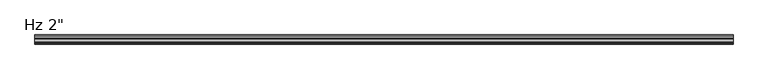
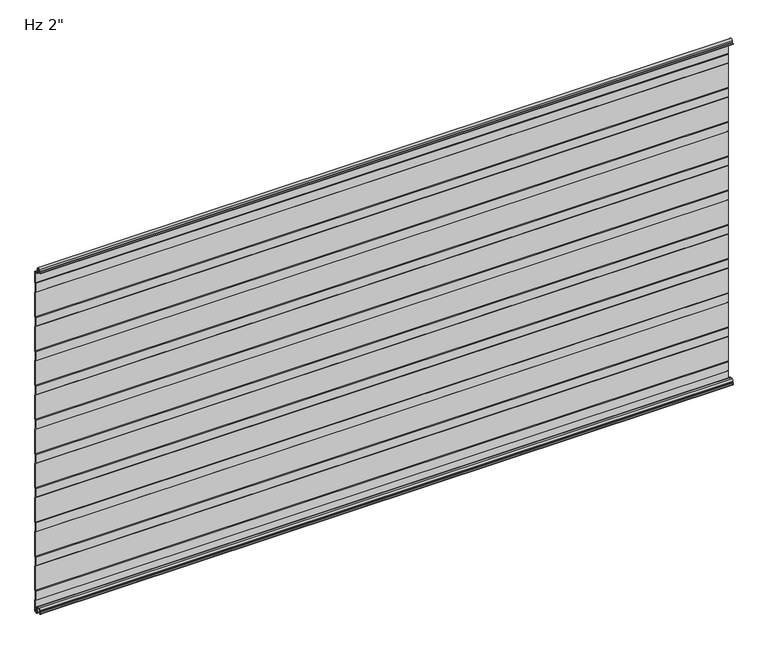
"""IFC4 building model written with IfcOpenShell, lengths in millimetres: plate geometry."""

from ifc_helpers import new_model, si_unit, frame, origin, place, context, project, spatial, polyline, circle_curve, source, transform, mapped, element, save
from ifc_brep_helpers import plane_surface, cylinder_surface, revolved_surface, advanced_brep


def plate_b0f2de99(model_context):
    return source(origin(), model_context, "Body", "AdvancedBrep", [
        advanced_brep(
        [(-730.0, -17.0015159, 2.0313088), (-730.0, -18.0015191, 1.0313116), (-730.0, -19.0015105, 2.0313088), (-730.0, -19.0015105, 6.0315125), (-730.0, -18.0015159, 6.0315125), (-730.0, -18.0015159, 8.7237223), (-730.0, -14.7015202, 12.023718), (-730.0, -10.301529, 12.023718), (-730.0, -7.0015335, 8.7237225), (-730.0, -7.0015335, -1.6962564), (-730.0, -5.2315393, -3.4662506), (-730.0, -0.9999916, -3.4662506), (-730.0, -0.9999916, 21.034026), (-730.0, -2.2002307, 22.4196686), (-730.0, -2.2002307, 41.7948349), (-730.0, -1.0, 43.1804679), (-730.0, -1.0, 97.2338833), (-730.0, -2.2002307, 98.6195162), (-730.0, -2.2002307, 117.9946825), (-730.0, -1.0, 119.3803155), (-730.0, -1.0, 173.4337309), (-730.0, -2.2002307, 174.8193638), (-730.0, -2.2002307, 194.1945301), (-730.0, -1.0, 195.5801631), (-730.0, -1.0, 249.6335785), (-730.0, -2.2002307, 251.0192114), (-730.0, -2.2002307, 270.3943777), (-730.0, -1.0, 271.7800107), (-730.0, -1.0, 325.8334261), (-730.0, -2.2002307, 327.219059), (-730.0, -2.2002307, 346.5942253), (-730.0, -1.0, 347.9798583), (-730.0, -1.0, 402.0332737), (-730.0, -2.2002307, 403.4189066), (-730.0, -2.2002307, 422.7940729), (-730.0, -1.0, 424.1797059), (-730.0, -1.0, 478.2331213), (-730.0, -2.2002307, 479.6187542), (-730.0, -2.2002307, 498.9939205), (-730.0, -1.0, 500.3795535), (-730.0, -1.0, 554.4329689), (-730.0, -2.2002307, 555.8186018), (-730.0, -2.2002307, 575.1937681), (-730.0, -1.0, 576.5794011), (-730.0, -1.0, 630.6328165), (-730.0, -2.2002307, 632.0184494), (-730.0, -2.2002307, 651.3936157), (-730.0, -1.0, 652.7792487), (-730.0, -1.0, 706.8326641), (-730.0, -2.2002307, 708.218297), (-730.0, -2.2002307, 727.5934633), (-730.0, -1.0, 728.9790963), (-730.0, -1.0, 753.4787013), (-730.0, -6.0026007, 753.4787013), (-730.0, -9.9974365, 757.3016499), (-730.0, -10.4046442, 765.7931719), (-730.0, -14.7059822, 765.7921924), (-730.0, -14.9256429, 761.6513685), (-730.0, -16.6743462, 759.9686884), (-730.0, -19.0015288, 759.9686884), (-730.0, -19.0015288, 760.9686884), (-730.0, -16.6743462, 760.9686884), (-730.0, -15.9247038, 761.6955779), (-730.0, -15.7045782, 765.8451655), (-730.0, -9.405912, 765.8435732), (-730.0, -8.9985844, 757.3495495), (-730.0, -6.0004836, 754.4787013), (-730.0, -1.4015652, 754.4787013), (-730.0, -0.001568, 753.078797), (-730.0, 2.09e-05, 729.1275849), (-730.0, -0.3417885, 728.2116305), (-730.0, -1.2002307, 727.2205829), (-730.0, -1.2002307, 708.5911775), (-730.0, -0.3417885, 707.6001298), (-730.0, 0.0, 706.6835129), (-730.0, 0.0, 652.9283998), (-730.0, -0.3417885, 652.0117829), (-730.0, -1.2002307, 651.0207353), (-730.0, -1.2002307, 632.3913299), (-730.0, -0.3417885, 631.4002822), (-730.0, 0.0, 630.4836653), (-730.0, 0.0, 576.7285522), (-730.0, -0.3417885, 575.8119353), (-730.0, -1.2002307, 574.8208877), (-730.0, -1.2002307, 556.1914823), (-730.0, -0.3417885, 555.2004346), (-730.0, 0.0, 554.2838177), (-730.0, 0.0, 500.5287046), (-730.0, -0.3417885, 499.6120877), (-730.0, -1.2002307, 498.6210401), (-730.0, -1.2002307, 479.9916347), (-730.0, -0.3417885, 479.000587), (-730.0, 0.0, 478.0839701), (-730.0, 0.0, 424.328857), (-730.0, -0.3417885, 423.4122401), (-730.0, -1.2002307, 422.4211925), (-730.0, -1.2002307, 403.7917871), (-730.0, -0.3417885, 402.8007394), (-730.0, 0.0, 401.8841225), (-730.0, 0.0, 348.1290094), (-730.0, -0.3417885, 347.2123925), (-730.0, -1.2002307, 346.2213449), (-730.0, -1.2002307, 327.5919395), (-730.0, -0.3417885, 326.6008918), (-730.0, 0.0, 325.6842749), (-730.0, 0.0, 271.9291618), (-730.0, -0.3417885, 271.0125449), (-730.0, -1.2002307, 270.0214973), (-730.0, -1.2002307, 251.3920919), (-730.0, -0.3417885, 250.4010442), (-730.0, 0.0, 249.4844273), (-730.0, 0.0, 195.7293142), (-730.0, -0.3417885, 194.8126973), (-730.0, -1.2002307, 193.8216497), (-730.0, -1.2002307, 175.1922443), (-730.0, -0.3417885, 174.2011966), (-730.0, 0.0, 173.2845797), (-730.0, 0.0, 119.5294666), (-730.0, -0.3417885, 118.6128497), (-730.0, -1.2002307, 117.6218021), (-730.0, -1.2002307, 98.9923967), (-730.0, -0.3417885, 98.001349), (-730.0, 0.0, 97.0847321), (-730.0, 0.0, 43.329619), (-730.0, -0.3417885, 42.4130021), (-730.0, -1.2002307, 41.4219545), (-730.0, -1.2002307, 22.7925491), (-730.0, -0.3417885, 21.8015014), (-730.0, 0.0, 20.8847931), (-730.0, 8.4e-06, -3.0662545), (-730.0, -1.3999878, -4.4662506), (-730.0, -5.2315393, -4.4662506), (-730.0, -8.0015335, -1.6962564), (-730.0, -8.0015335, 8.7237225), (-730.0, -10.301529, 11.023718), (-730.0, -14.7015202, 11.023718), (-730.0, -17.0015159, 8.7237223), (730.0, -17.0015159, 2.0313088), (730.0, -17.0015159, 8.7237223), (730.0, -14.7015202, 11.023718), (730.0, -10.301529, 11.023718), (730.0, -8.0015335, 8.7237225), (730.0, -8.0015335, -1.6962564), (730.0, -5.2315393, -4.4662506), (730.0, -1.3999878, -4.4662506), (730.0, 8.4e-06, -3.0662545), (730.0, 8.4e-06, 20.8848845), (730.0, -0.3417885, 21.8015014), (730.0, -1.2002307, 22.7925491), (730.0, -1.2002307, 41.4219545), (730.0, -0.3417885, 42.4130021), (730.0, 0.0, 43.329619), (730.0, 0.0, 97.0847321), (730.0, -0.3417885, 98.001349), (730.0, -1.2002307, 98.9923967), (730.0, -1.2002307, 117.6218021), (730.0, -0.3417885, 118.6128497), (730.0, 0.0, 119.5294666), (730.0, 0.0, 173.2845797), (730.0, -0.3417885, 174.2011966), (730.0, -1.2002307, 175.1922443), (730.0, -1.2002307, 193.8216497), (730.0, -0.3417885, 194.8126973), (730.0, 0.0, 195.7293142), (730.0, 0.0, 249.4844273), (730.0, -0.3417885, 250.4010442), (730.0, -1.2002307, 251.3920919), (730.0, -1.2002307, 270.0214973), (730.0, -0.3417885, 271.0125449), (730.0, 0.0, 271.9291618), (730.0, 0.0, 325.6842749), (730.0, -0.3417885, 326.6008918), (730.0, -1.2002307, 327.5919395), (730.0, -1.2002307, 346.2213449), (730.0, -0.3417885, 347.2123925), (730.0, 0.0, 348.1290094), (730.0, 0.0, 401.8841225), (730.0, -0.3417885, 402.8007394), (730.0, -1.2002307, 403.7917871), (730.0, -1.2002307, 422.4211925), (730.0, -0.3417885, 423.4122401), (730.0, 0.0, 424.328857), (730.0, 0.0, 478.0839701), (730.0, -0.3417885, 479.000587), (730.0, -1.2002307, 479.9916347), (730.0, -1.2002307, 498.6210401), (730.0, -0.3417885, 499.6120877), (730.0, 0.0, 500.5287046), (730.0, 0.0, 554.2838177), (730.0, -0.3417885, 555.2004346), (730.0, -1.2002307, 556.1914823), (730.0, -1.2002307, 574.8208877), (730.0, -0.3417885, 575.8119353), (730.0, 0.0, 576.7285522), (730.0, 0.0, 630.4836653), (730.0, -0.3417885, 631.4002822), (730.0, -1.2002307, 632.3913299), (730.0, -1.2002307, 651.0207353), (730.0, -0.3417885, 652.0117829), (730.0, 0.0, 652.9283998), (730.0, 0.0, 706.6835129), (730.0, -0.3417885, 707.6001298), (730.0, -1.2002307, 708.5911775), (730.0, -1.2002307, 727.2205829), (730.0, -0.3417885, 728.2116305), (730.0, 0.0, 729.1282474), (730.0, 2.09e-05, 753.078797), (730.0, -1.4015652, 754.4787013), (730.0, -6.0004836, 754.4787013), (730.0, -8.9985844, 757.3495495), (730.0, -9.405912, 765.8435732), (730.0, -15.7045782, 765.8451655), (730.0, -15.9247038, 761.6955779), (730.0, -16.6743462, 760.9686884), (730.0, -19.0015288, 760.9686884), (730.0, -19.0015288, 759.9686884), (730.0, -16.6743462, 759.9686884), (730.0, -14.9256429, 761.6513685), (730.0, -14.7059822, 765.7921924), (730.0, -10.4046442, 765.7931719), (730.0, -9.9974365, 757.3016499), (730.0, -6.0026007, 753.4787013), (730.0, -1.0, 753.4787013), (730.0, -1.0, 728.9790963), (730.0, -2.2002307, 727.5934633), (730.0, -2.2002307, 708.218297), (730.0, -1.0, 706.8326641), (730.0, -1.0, 652.7792487), (730.0, -2.2002307, 651.3936157), (730.0, -2.2002307, 632.0184494), (730.0, -1.0, 630.6328165), (730.0, -1.0, 576.5794011), (730.0, -2.2002307, 575.1937681), (730.0, -2.2002307, 555.8186018), (730.0, -1.0, 554.4329689), (730.0, -1.0, 500.3795535), (730.0, -2.2002307, 498.9939205), (730.0, -2.2002307, 479.6187542), (730.0, -1.0, 478.2331213), (730.0, -1.0, 424.1797059), (730.0, -2.2002307, 422.7940729), (730.0, -2.2002307, 403.4189066), (730.0, -1.0, 402.0332737), (730.0, -1.0, 347.9798583), (730.0, -2.2002307, 346.5942253), (730.0, -2.2002307, 327.219059), (730.0, -1.0, 325.8334261), (730.0, -1.0, 271.7800107), (730.0, -2.2002307, 270.3943777), (730.0, -2.2002307, 251.0192114), (730.0, -1.0, 249.6335785), (730.0, -1.0, 195.5801631), (730.0, -2.2002307, 194.1945301), (730.0, -2.2002307, 174.8193638), (730.0, -1.0, 173.4337309), (730.0, -1.0, 119.3803155), (730.0, -2.2002307, 117.9946825), (730.0, -2.2002307, 98.6195162), (730.0, -1.0, 97.2338833), (730.0, -1.0, 43.1804679), (730.0, -2.2002307, 41.7948349), (730.0, -2.2002307, 22.4196686), (730.0, -0.9999916, 21.034026), (730.0, -0.9999916, -3.4662506), (730.0, -5.2315393, -3.4662506), (730.0, -7.0015335, -1.6962564), (730.0, -7.0015335, 8.7237225), (730.0, -10.301529, 12.023718), (730.0, -14.7015202, 12.023718), (730.0, -18.0015159, 8.7237223), (730.0, -18.0015159, 6.0315125), (730.0, -19.0015105, 6.0315125), (730.0, -19.0015105, 2.0313088), (730.0, -18.0015192, 1.0313116)],
        [
            (0, 1, circle_curve(frame((-730.0, -18.0015132, 2.0313088), z_axis=(-1.0, 0.0, 0.0), x_axis=(0.0, 0.0, 1.0)), 0.9999973)),
            (1, 2, circle_curve(frame((-730.0, -18.0015133, 2.0313088), z_axis=(-1.0, 0.0, 0.0), x_axis=(0.0, 0.0, 1.0)), 0.9999972)),
            (2, 3),
            (3, 4),
            (4, 5),
            (5, 6, circle_curve(frame((-730.0, -14.7015202, 8.7237223), z_axis=(-1.0, 0.0, 0.0), x_axis=(0.0, 0.0, 1.0)), 3.2999957)),
            (6, 7),
            (7, 8, circle_curve(frame((-730.0, -10.301529, 8.7237225), z_axis=(-1.0, 0.0, 0.0), x_axis=(0.0, 0.0, 1.0)), 3.2999955)),
            (8, 9),
            (9, 10, circle_curve(frame((-730.0, -5.2315393, -1.6962564), z_axis=(1.0, 0.0, 0.0), x_axis=(0.0, 0.0, 1.0)), 1.7699942)),
            (10, 11),
            (11, 12),
            (12, 13),
            (13, 14),
            (14, 15),
            (15, 16),
            (16, 17),
            (17, 18),
            (18, 19),
            (19, 20),
            (20, 21),
            (21, 22),
            (22, 23),
            (23, 24),
            (24, 25),
            (25, 26),
            (26, 27),
            (27, 28),
            (28, 29),
            (29, 30),
            (30, 31),
            (31, 32),
            (32, 33),
            (33, 34),
            (34, 35),
            (35, 36),
            (36, 37),
            (37, 38),
            (38, 39),
            (39, 40),
            (40, 41),
            (41, 42),
            (42, 43),
            (43, 44),
            (44, 45),
            (45, 46),
            (46, 47),
            (47, 48),
            (48, 49),
            (49, 50),
            (50, 51),
            (51, 52),
            (52, 53),
            (53, 54, circle_curve(frame((-730.0, -5.9867338, 757.4939817), z_axis=(-1.0, 0.0, 0.0), x_axis=(0.0, 0.0, 1.0)), 4.0153117)),
            (54, 55),
            (55, 56, circle_curve(frame((-730.0, -12.5552871, 765.6781032), z_axis=(1.0, 0.0, 0.0), x_axis=(0.0, 0.0, 1.0)), 2.153719)),
            (56, 57),
            (57, 58, circle_curve(frame((-730.0, -16.6743462, 761.7186869), z_axis=(-1.0, 0.0, 0.0), x_axis=(0.0, 0.0, 1.0)), 1.7499985)),
            (58, 59),
            (59, 60),
            (60, 61),
            (61, 62, circle_curve(frame((-730.0, -16.6743462, 761.7186869), z_axis=(1.0, 0.0, 0.0), x_axis=(0.0, 0.0, 1.0)), 0.7499985)),
            (62, 63),
            (63, 64, circle_curve(frame((-730.0, -12.5552871, 765.6781032), z_axis=(-1.0, 0.0, 0.0), x_axis=(0.0, 0.0, 1.0)), 3.153719)),
            (64, 65),
            (65, 66, circle_curve(frame((-730.0, -5.9867338, 757.4939817), z_axis=(1.0, 0.0, 0.0), x_axis=(0.0, 0.0, 1.0)), 3.0153117)),
            (66, 67),
            (67, 68, circle_curve(frame((-730.0, -1.4015652, 753.0787041), z_axis=(-1.0, 0.0, 0.0), x_axis=(0.0, 0.0, 1.0)), 1.3999972)),
            (68, 69),
            (69, 70, circle_curve(frame((-730.0, -1.3999972, 729.1282474), z_axis=(-1.0, 0.0, 0.0), x_axis=(0.0, 0.0, 1.0)), 1.3999972)),
            (70, 71),
            (71, 72),
            (72, 73),
            (73, 74, circle_curve(frame((-730.0, -1.3999972, 706.6835129), z_axis=(-1.0, 0.0, 0.0), x_axis=(0.0, 0.0, 1.0)), 1.3999972)),
            (74, 75),
            (75, 76, circle_curve(frame((-730.0, -1.3999972, 652.9283998), z_axis=(-1.0, 0.0, 0.0), x_axis=(0.0, 0.0, 1.0)), 1.3999972)),
            (76, 77),
            (77, 78),
            (78, 79),
            (79, 80, circle_curve(frame((-730.0, -1.3999972, 630.4836653), z_axis=(-1.0, 0.0, 0.0), x_axis=(0.0, 0.0, 1.0)), 1.3999972)),
            (80, 81),
            (81, 82, circle_curve(frame((-730.0, -1.3999972, 576.7285522), z_axis=(-1.0, 0.0, 0.0), x_axis=(0.0, 0.0, 1.0)), 1.3999972)),
            (82, 83),
            (83, 84),
            (84, 85),
            (85, 86, circle_curve(frame((-730.0, -1.3999972, 554.2838177), z_axis=(-1.0, 0.0, 0.0), x_axis=(0.0, 0.0, 1.0)), 1.3999972)),
            (86, 87),
            (87, 88, circle_curve(frame((-730.0, -1.3999972, 500.5287046), z_axis=(-1.0, 0.0, 0.0), x_axis=(0.0, 0.0, 1.0)), 1.3999972)),
            (88, 89),
            (89, 90),
            (90, 91),
            (91, 92, circle_curve(frame((-730.0, -1.3999972, 478.0839701), z_axis=(-1.0, 0.0, 0.0), x_axis=(0.0, 0.0, 1.0)), 1.3999972)),
            (92, 93),
            (93, 94, circle_curve(frame((-730.0, -1.3999972, 424.328857), z_axis=(-1.0, 0.0, 0.0), x_axis=(0.0, 0.0, 1.0)), 1.3999972)),
            (94, 95),
            (95, 96),
            (96, 97),
            (97, 98, circle_curve(frame((-730.0, -1.3999972, 401.8841225), z_axis=(-1.0, 0.0, 0.0), x_axis=(0.0, 0.0, 1.0)), 1.3999972)),
            (98, 99),
            (99, 100, circle_curve(frame((-730.0, -1.3999972, 348.1290094), z_axis=(-1.0, 0.0, 0.0), x_axis=(0.0, 0.0, 1.0)), 1.3999972)),
            (100, 101),
            (101, 102),
            (102, 103),
            (103, 104, circle_curve(frame((-730.0, -1.3999972, 325.6842749), z_axis=(-1.0, 0.0, 0.0), x_axis=(0.0, 0.0, 1.0)), 1.3999972)),
            (104, 105),
            (105, 106, circle_curve(frame((-730.0, -1.3999972, 271.9291618), z_axis=(-1.0, 0.0, 0.0), x_axis=(0.0, 0.0, 1.0)), 1.3999972)),
            (106, 107),
            (107, 108),
            (108, 109),
            (109, 110, circle_curve(frame((-730.0, -1.3999972, 249.4844273), z_axis=(-1.0, 0.0, 0.0), x_axis=(0.0, 0.0, 1.0)), 1.3999972)),
            (110, 111),
            (111, 112, circle_curve(frame((-730.0, -1.3999972, 195.7293142), z_axis=(-1.0, 0.0, 0.0), x_axis=(0.0, 0.0, 1.0)), 1.3999972)),
            (112, 113),
            (113, 114),
            (114, 115),
            (115, 116, circle_curve(frame((-730.0, -1.3999972, 173.2845797), z_axis=(-1.0, 0.0, 0.0), x_axis=(0.0, 0.0, 1.0)), 1.3999972)),
            (116, 117),
            (117, 118, circle_curve(frame((-730.0, -1.3999972, 119.5294666), z_axis=(-1.0, 0.0, 0.0), x_axis=(0.0, 0.0, 1.0)), 1.3999972)),
            (118, 119),
            (119, 120),
            (120, 121),
            (121, 122, circle_curve(frame((-730.0, -1.3999972, 97.0847321), z_axis=(-1.0, 0.0, 0.0), x_axis=(0.0, 0.0, 1.0)), 1.3999972)),
            (122, 123),
            (123, 124, circle_curve(frame((-730.0, -1.3999972, 43.329619), z_axis=(-1.0, 0.0, 0.0), x_axis=(0.0, 0.0, 1.0)), 1.3999972)),
            (124, 125),
            (125, 126),
            (126, 127),
            (127, 128, circle_curve(frame((-730.0, -1.3999972, 20.8848845), z_axis=(-1.0, 0.0, 0.0), x_axis=(0.0, 0.0, 1.0)), 1.3999972)),
            (128, 129),
            (129, 130, circle_curve(frame((-730.0, -1.3999878, -3.0662545), z_axis=(-1.0, 0.0, 0.0), x_axis=(0.0, 0.0, 1.0)), 1.3999962)),
            (130, 131),
            (131, 132, circle_curve(frame((-730.0, -5.2315393, -1.6962564), z_axis=(-1.0, 0.0, 0.0), x_axis=(0.0, 0.0, 1.0)), 2.7699942)),
            (132, 133),
            (133, 134, circle_curve(frame((-730.0, -10.301529, 8.7237225), z_axis=(1.0, 0.0, 0.0), x_axis=(0.0, 0.0, 1.0)), 2.2999955)),
            (134, 135),
            (135, 136, circle_curve(frame((-730.0, -14.7015202, 8.7237223), z_axis=(1.0, 0.0, 0.0), x_axis=(0.0, 0.0, 1.0)), 2.2999957)),
            (136, 0),
            (137, 138),
            (138, 139, circle_curve(frame((730.0, -14.7015202, 8.7237223), z_axis=(-1.0, 0.0, 0.0), x_axis=(0.0, 0.0, 1.0)), 2.2999957)),
            (139, 140),
            (140, 141, circle_curve(frame((730.0, -10.301529, 8.7237225), z_axis=(-1.0, 0.0, 0.0), x_axis=(0.0, 0.0, 1.0)), 2.2999955)),
            (141, 142),
            (142, 143, circle_curve(frame((730.0, -5.2315393, -1.6962564), z_axis=(1.0, 0.0, 0.0), x_axis=(0.0, 0.0, 1.0)), 2.7699942)),
            (143, 144),
            (144, 145, circle_curve(frame((730.0, -1.3999878, -3.0662545), z_axis=(1.0, 0.0, 0.0), x_axis=(0.0, 0.0, 1.0)), 1.3999962)),
            (145, 146),
            (146, 147, circle_curve(frame((730.0, -1.3999972, 20.8848845), z_axis=(1.0, 0.0, 0.0), x_axis=(0.0, 0.0, 1.0)), 1.3999972)),
            (147, 148),
            (148, 149),
            (149, 150),
            (150, 151, circle_curve(frame((730.0, -1.3999972, 43.329619), z_axis=(1.0, 0.0, 0.0), x_axis=(0.0, 0.0, 1.0)), 1.3999972)),
            (151, 152),
            (152, 153, circle_curve(frame((730.0, -1.3999972, 97.0847321), z_axis=(1.0, 0.0, 0.0), x_axis=(0.0, 0.0, 1.0)), 1.3999972)),
            (153, 154),
            (154, 155),
            (155, 156),
            (156, 157, circle_curve(frame((730.0, -1.3999972, 119.5294666), z_axis=(1.0, 0.0, 0.0), x_axis=(0.0, 0.0, 1.0)), 1.3999972)),
            (157, 158),
            (158, 159, circle_curve(frame((730.0, -1.3999972, 173.2845797), z_axis=(1.0, 0.0, 0.0), x_axis=(0.0, 0.0, 1.0)), 1.3999972)),
            (159, 160),
            (160, 161),
            (161, 162),
            (162, 163, circle_curve(frame((730.0, -1.3999972, 195.7293142), z_axis=(1.0, 0.0, 0.0), x_axis=(0.0, 0.0, 1.0)), 1.3999972)),
            (163, 164),
            (164, 165, circle_curve(frame((730.0, -1.3999972, 249.4844273), z_axis=(1.0, 0.0, 0.0), x_axis=(0.0, 0.0, 1.0)), 1.3999972)),
            (165, 166),
            (166, 167),
            (167, 168),
            (168, 169, circle_curve(frame((730.0, -1.3999972, 271.9291618), z_axis=(1.0, 0.0, 0.0), x_axis=(0.0, 0.0, 1.0)), 1.3999972)),
            (169, 170),
            (170, 171, circle_curve(frame((730.0, -1.3999972, 325.6842749), z_axis=(1.0, 0.0, 0.0), x_axis=(0.0, 0.0, 1.0)), 1.3999972)),
            (171, 172),
            (172, 173),
            (173, 174),
            (174, 175, circle_curve(frame((730.0, -1.3999972, 348.1290094), z_axis=(1.0, 0.0, 0.0), x_axis=(0.0, 0.0, 1.0)), 1.3999972)),
            (175, 176),
            (176, 177, circle_curve(frame((730.0, -1.3999972, 401.8841225), z_axis=(1.0, 0.0, 0.0), x_axis=(0.0, 0.0, 1.0)), 1.3999972)),
            (177, 178),
            (178, 179),
            (179, 180),
            (180, 181, circle_curve(frame((730.0, -1.3999972, 424.328857), z_axis=(1.0, 0.0, 0.0), x_axis=(0.0, 0.0, 1.0)), 1.3999972)),
            (181, 182),
            (182, 183, circle_curve(frame((730.0, -1.3999972, 478.0839701), z_axis=(1.0, 0.0, 0.0), x_axis=(0.0, 0.0, 1.0)), 1.3999972)),
            (183, 184),
            (184, 185),
            (185, 186),
            (186, 187, circle_curve(frame((730.0, -1.3999972, 500.5287046), z_axis=(1.0, 0.0, 0.0), x_axis=(0.0, 0.0, 1.0)), 1.3999972)),
            (187, 188),
            (188, 189, circle_curve(frame((730.0, -1.3999972, 554.2838177), z_axis=(1.0, 0.0, 0.0), x_axis=(0.0, 0.0, 1.0)), 1.3999972)),
            (189, 190),
            (190, 191),
            (191, 192),
            (192, 193, circle_curve(frame((730.0, -1.3999972, 576.7285522), z_axis=(1.0, 0.0, 0.0), x_axis=(0.0, 0.0, 1.0)), 1.3999972)),
            (193, 194),
            (194, 195, circle_curve(frame((730.0, -1.3999972, 630.4836653), z_axis=(1.0, 0.0, 0.0), x_axis=(0.0, 0.0, 1.0)), 1.3999972)),
            (195, 196),
            (196, 197),
            (197, 198),
            (198, 199, circle_curve(frame((730.0, -1.3999972, 652.9283998), z_axis=(1.0, 0.0, 0.0), x_axis=(0.0, 0.0, 1.0)), 1.3999972)),
            (199, 200),
            (200, 201, circle_curve(frame((730.0, -1.3999972, 706.6835129), z_axis=(1.0, 0.0, 0.0), x_axis=(0.0, 0.0, 1.0)), 1.3999972)),
            (201, 202),
            (202, 203),
            (203, 204),
            (204, 205, circle_curve(frame((730.0, -1.3999972, 729.1282474), z_axis=(1.0, 0.0, 0.0), x_axis=(0.0, 0.0, 1.0)), 1.3999972)),
            (205, 206),
            (206, 207, circle_curve(frame((730.0, -1.4015652, 753.0787041), z_axis=(1.0, 0.0, 0.0), x_axis=(0.0, 0.0, 1.0)), 1.3999972)),
            (207, 208),
            (208, 209, circle_curve(frame((730.0, -5.9867338, 757.4939817), z_axis=(-1.0, 0.0, 0.0), x_axis=(0.0, 0.0, 1.0)), 3.0153117)),
            (209, 210),
            (210, 211, circle_curve(frame((730.0, -12.5552871, 765.6781032), z_axis=(1.0, 0.0, 0.0), x_axis=(0.0, 0.0, 1.0)), 3.153719)),
            (211, 212),
            (212, 213, circle_curve(frame((730.0, -16.6743462, 761.7186869), z_axis=(-1.0, 0.0, 0.0), x_axis=(0.0, 0.0, 1.0)), 0.7499985)),
            (213, 214),
            (214, 215),
            (215, 216),
            (216, 217, circle_curve(frame((730.0, -16.6743462, 761.7186869), z_axis=(1.0, 0.0, 0.0), x_axis=(0.0, 0.0, 1.0)), 1.7499985)),
            (217, 218),
            (218, 219, circle_curve(frame((730.0, -12.5552871, 765.6781032), z_axis=(-1.0, 0.0, 0.0), x_axis=(0.0, 0.0, 1.0)), 2.153719)),
            (219, 220),
            (220, 221, circle_curve(frame((730.0, -5.9867338, 757.4939817), z_axis=(1.0, 0.0, 0.0), x_axis=(0.0, 0.0, 1.0)), 4.0153117)),
            (221, 222),
            (222, 223),
            (223, 224),
            (224, 225),
            (225, 226),
            (226, 227),
            (227, 228),
            (228, 229),
            (229, 230),
            (230, 231),
            (231, 232),
            (232, 233),
            (233, 234),
            (234, 235),
            (235, 236),
            (236, 237),
            (237, 238),
            (238, 239),
            (239, 240),
            (240, 241),
            (241, 242),
            (242, 243),
            (243, 244),
            (244, 245),
            (245, 246),
            (246, 247),
            (247, 248),
            (248, 249),
            (249, 250),
            (250, 251),
            (251, 252),
            (252, 253),
            (253, 254),
            (254, 255),
            (255, 256),
            (256, 257),
            (257, 258),
            (258, 259),
            (259, 260),
            (260, 261),
            (261, 262),
            (262, 263),
            (263, 264),
            (264, 265, circle_curve(frame((730.0, -5.2315393, -1.6962564), z_axis=(-1.0, 0.0, 0.0), x_axis=(0.0, 0.0, 1.0)), 1.7699942)),
            (265, 266),
            (266, 267, circle_curve(frame((730.0, -10.301529, 8.7237225), z_axis=(1.0, 0.0, 0.0), x_axis=(0.0, 0.0, 1.0)), 3.2999955)),
            (267, 268),
            (268, 269, circle_curve(frame((730.0, -14.7015202, 8.7237223), z_axis=(1.0, 0.0, 0.0), x_axis=(0.0, 0.0, 1.0)), 3.2999957)),
            (269, 270),
            (270, 271),
            (271, 272),
            (272, 273, circle_curve(frame((730.0, -18.0015133, 2.0313088), z_axis=(1.0, 0.0, 0.0), x_axis=(0.0, 0.0, 1.0)), 0.9999972)),
            (273, 137, circle_curve(frame((730.0, -18.0015132, 2.0313088), z_axis=(1.0, 0.0, 0.0), x_axis=(0.0, 0.0, 1.0)), 0.9999973)),
            (136, 138),
            (137, 0),
            (135, 139),
            (134, 140),
            (133, 141),
            (132, 142),
            (131, 143),
            (130, 144),
            (129, 145),
            (128, 146),
            (127, 147),
            (126, 148),
            (125, 149),
            (124, 150),
            (123, 151),
            (122, 152),
            (121, 153),
            (120, 154),
            (119, 155),
            (118, 156),
            (117, 157),
            (116, 158),
            (115, 159),
            (114, 160),
            (113, 161),
            (112, 162),
            (111, 163),
            (110, 164),
            (109, 165),
            (108, 166),
            (107, 167),
            (106, 168),
            (105, 169),
            (104, 170),
            (103, 171),
            (102, 172),
            (101, 173),
            (100, 174),
            (99, 175),
            (98, 176),
            (97, 177),
            (96, 178),
            (95, 179),
            (94, 180),
            (93, 181),
            (92, 182),
            (91, 183),
            (90, 184),
            (89, 185),
            (88, 186),
            (87, 187),
            (86, 188),
            (85, 189),
            (84, 190),
            (83, 191),
            (82, 192),
            (81, 193),
            (80, 194),
            (79, 195),
            (78, 196),
            (77, 197),
            (76, 198),
            (75, 199),
            (74, 200),
            (73, 201),
            (72, 202),
            (71, 203),
            (70, 204),
            (69, 205),
            (68, 206),
            (67, 207),
            (66, 208),
            (65, 209),
            (64, 210),
            (63, 211),
            (62, 212),
            (61, 213),
            (60, 214),
            (59, 215),
            (58, 216),
            (57, 217),
            (56, 218),
            (55, 219),
            (54, 220),
            (53, 221),
            (52, 222),
            (51, 223),
            (50, 224),
            (49, 225),
            (48, 226),
            (47, 227),
            (46, 228),
            (45, 229),
            (44, 230),
            (43, 231),
            (42, 232),
            (41, 233),
            (40, 234),
            (39, 235),
            (38, 236),
            (37, 237),
            (36, 238),
            (35, 239),
            (34, 240),
            (33, 241),
            (32, 242),
            (31, 243),
            (30, 244),
            (29, 245),
            (28, 246),
            (27, 247),
            (26, 248),
            (25, 249),
            (24, 250),
            (23, 251),
            (22, 252),
            (21, 253),
            (20, 254),
            (19, 255),
            (18, 256),
            (17, 257),
            (16, 258),
            (15, 259),
            (14, 260),
            (13, 261),
            (12, 262),
            (11, 263),
            (10, 264),
            (9, 265),
            (8, 266),
            (7, 267),
            (6, 268),
            (5, 269),
            (4, 270),
            (3, 271),
            (2, 272),
            (1, 273),
        ],
        [
            plane_surface(frame((-730.0, 0.0, 381.0), z_axis=(-1.0, 0.0, 0.0), x_axis=(0.0, 1.0, 0.0))),
            plane_surface(frame((730.0, 0.0, 381.0), z_axis=(1.0, 0.0, 0.0), x_axis=(0.0, 1.0, 0.0))),
            plane_surface(frame((-730.0, -17.0015159, 2.0313088), z_axis=(0.0, 1.0, 0.0), x_axis=(1.0, 0.0, 0.0))),
            revolved_surface(polyline([(730.0, -14.7015202, 11.023718), (-730.0, -14.7015202, 11.023718)]), (-730.0, -14.7015202, 8.7237223), (1.0, 0.0, 0.0)),
            plane_surface(frame((-730.0, -14.7015202, 11.023718), z_axis=(0.0, 0.0, -1.0), x_axis=(1.0, 0.0, 0.0))),
            revolved_surface(polyline([(730.0, -10.301529, 11.023717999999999), (-730.0, -10.301529, 11.023717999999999)]), (-730.0, -10.301529, 8.7237225), (1.0, 0.0, 0.0)),
            plane_surface(frame((-730.0, -8.0015335, 8.7237225), z_axis=(0.0, -1.0, 0.0), x_axis=(1.0, 0.0, 0.0))),
            cylinder_surface(frame((-730.0, -5.2315393, -1.6962564), z_axis=(-1.0, 0.0, 0.0), x_axis=(0.0, 0.0, 1.0)), 2.7699942),
            plane_surface(frame((-730.0, -5.2315393, -4.4662506), z_axis=(0.0, 0.0, -1.0), x_axis=(1.0, 0.0, 0.0))),
            cylinder_surface(frame((-730.0, -1.3999878, -3.0662545), z_axis=(-1.0, 0.0, 0.0), x_axis=(0.0, 0.0, 1.0)), 1.3999962),
            plane_surface(frame((-730.0, 8.4e-06, -3.0662545), z_axis=(0.0, 1.0, 0.0), x_axis=(1.0, 0.0, 0.0))),
            cylinder_surface(frame((-730.0, -1.3999972, 20.8848845), z_axis=(-1.0, 0.0, 0.0), x_axis=(0.0, 0.0, 1.0)), 1.3999972),
            plane_surface(frame((-730.0, -0.3417885, 21.8015014), z_axis=(0.0, 0.755864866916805, 0.6547276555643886), x_axis=(1.0, 0.0, 0.0))),
            plane_surface(frame((-730.0, -1.2002307, 32.1072518), z_axis=(0.0, 1.0, 0.0), x_axis=(1.0, 0.0, 0.0))),
            plane_surface(frame((-730.0, -1.2002307, 41.4219545), z_axis=(0.0, 0.755864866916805, -0.6547276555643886), x_axis=(1.0, 0.0, 0.0))),
            cylinder_surface(frame((-730.0, -1.3999972, 43.329619), z_axis=(-1.0, 0.0, 0.0), x_axis=(0.0, 0.0, 1.0)), 1.3999972),
            plane_surface(frame((-730.0, 0.0, 43.329619), z_axis=(0.0, 1.0, 0.0), x_axis=(1.0, 0.0, 0.0))),
            cylinder_surface(frame((-730.0, -1.3999972, 97.0847321), z_axis=(-1.0, 0.0, 0.0), x_axis=(0.0, 0.0, 1.0)), 1.3999972),
            plane_surface(frame((-730.0, -0.3417885, 98.001349), z_axis=(0.0, 0.755864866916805, 0.6547276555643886), x_axis=(1.0, 0.0, 0.0))),
            plane_surface(frame((-730.0, -1.2002307, 108.3070994), z_axis=(0.0, 1.0, 0.0), x_axis=(1.0, 0.0, 0.0))),
            plane_surface(frame((-730.0, -1.2002307, 117.6218021), z_axis=(0.0, 0.755864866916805, -0.6547276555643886), x_axis=(1.0, 0.0, 0.0))),
            cylinder_surface(frame((-730.0, -1.3999972, 119.5294666), z_axis=(-1.0, 0.0, 0.0), x_axis=(0.0, 0.0, 1.0)), 1.3999972),
            plane_surface(frame((-730.0, 0.0, 119.5294666), z_axis=(0.0, 1.0, 0.0), x_axis=(1.0, 0.0, 0.0))),
            cylinder_surface(frame((-730.0, -1.3999972, 173.2845797), z_axis=(-1.0, 0.0, 0.0), x_axis=(0.0, 0.0, 1.0)), 1.3999972),
            plane_surface(frame((-730.0, -0.3417885, 174.2011966), z_axis=(0.0, 0.755864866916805, 0.6547276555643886), x_axis=(1.0, 0.0, 0.0))),
            plane_surface(frame((-730.0, -1.2002307, 184.506947), z_axis=(0.0, 1.0, 0.0), x_axis=(1.0, 0.0, 0.0))),
            plane_surface(frame((-730.0, -1.2002307, 193.8216497), z_axis=(0.0, 0.755864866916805, -0.6547276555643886), x_axis=(1.0, 0.0, 0.0))),
            cylinder_surface(frame((-730.0, -1.3999972, 195.7293142), z_axis=(-1.0, 0.0, 0.0), x_axis=(0.0, 0.0, 1.0)), 1.3999972),
            plane_surface(frame((-730.0, 0.0, 195.7293142), z_axis=(0.0, 1.0, 0.0), x_axis=(1.0, 0.0, 0.0))),
            cylinder_surface(frame((-730.0, -1.3999972, 249.4844273), z_axis=(-1.0, 0.0, 0.0), x_axis=(0.0, 0.0, 1.0)), 1.3999972),
            plane_surface(frame((-730.0, -0.3417885, 250.4010442), z_axis=(0.0, 0.755864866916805, 0.6547276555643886), x_axis=(1.0, 0.0, 0.0))),
            plane_surface(frame((-730.0, -1.2002307, 260.7067946), z_axis=(0.0, 1.0, 0.0), x_axis=(1.0, 0.0, 0.0))),
            plane_surface(frame((-730.0, -1.2002307, 270.0214973), z_axis=(0.0, 0.755864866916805, -0.6547276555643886), x_axis=(1.0, 0.0, 0.0))),
            cylinder_surface(frame((-730.0, -1.3999972, 271.9291618), z_axis=(-1.0, 0.0, 0.0), x_axis=(0.0, 0.0, 1.0)), 1.3999972),
            plane_surface(frame((-730.0, 0.0, 271.9291618), z_axis=(0.0, 1.0, 0.0), x_axis=(1.0, 0.0, 0.0))),
            cylinder_surface(frame((-730.0, -1.3999972, 325.6842749), z_axis=(-1.0, 0.0, 0.0), x_axis=(0.0, 0.0, 1.0)), 1.3999972),
            plane_surface(frame((-730.0, -0.3417885, 326.6008918), z_axis=(0.0, 0.755864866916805, 0.6547276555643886), x_axis=(1.0, 0.0, 0.0))),
            plane_surface(frame((-730.0, -1.2002307, 336.9066422), z_axis=(0.0, 1.0, 0.0), x_axis=(1.0, 0.0, 0.0))),
            plane_surface(frame((-730.0, -1.2002307, 346.2213449), z_axis=(0.0, 0.755864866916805, -0.6547276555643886), x_axis=(1.0, 0.0, 0.0))),
            cylinder_surface(frame((-730.0, -1.3999972, 348.1290094), z_axis=(-1.0, 0.0, 0.0), x_axis=(0.0, 0.0, 1.0)), 1.3999972),
            plane_surface(frame((-730.0, 0.0, 348.1290094), z_axis=(0.0, 1.0, 0.0), x_axis=(1.0, 0.0, 0.0))),
            cylinder_surface(frame((-730.0, -1.3999972, 401.8841225), z_axis=(-1.0, 0.0, 0.0), x_axis=(0.0, 0.0, 1.0)), 1.3999972),
            plane_surface(frame((-730.0, -0.3417885, 402.8007394), z_axis=(0.0, 0.755864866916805, 0.6547276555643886), x_axis=(1.0, 0.0, 0.0))),
            plane_surface(frame((-730.0, -1.2002307, 413.1064898), z_axis=(0.0, 1.0, 0.0), x_axis=(1.0, 0.0, 0.0))),
            plane_surface(frame((-730.0, -1.2002307, 422.4211925), z_axis=(0.0, 0.755864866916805, -0.6547276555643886), x_axis=(1.0, 0.0, 0.0))),
            cylinder_surface(frame((-730.0, -1.3999972, 424.328857), z_axis=(-1.0, 0.0, 0.0), x_axis=(0.0, 0.0, 1.0)), 1.3999972),
            plane_surface(frame((-730.0, 0.0, 424.328857), z_axis=(0.0, 1.0, 0.0), x_axis=(1.0, 0.0, 0.0))),
            cylinder_surface(frame((-730.0, -1.3999972, 478.0839701), z_axis=(-1.0, 0.0, 0.0), x_axis=(0.0, 0.0, 1.0)), 1.3999972),
            plane_surface(frame((-730.0, -0.3417885, 479.000587), z_axis=(0.0, 0.755864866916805, 0.6547276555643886), x_axis=(1.0, 0.0, 0.0))),
            plane_surface(frame((-730.0, -1.2002307, 489.3063374), z_axis=(0.0, 1.0, 0.0), x_axis=(1.0, 0.0, 0.0))),
            plane_surface(frame((-730.0, -1.2002307, 498.6210401), z_axis=(0.0, 0.755864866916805, -0.6547276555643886), x_axis=(1.0, 0.0, 0.0))),
            cylinder_surface(frame((-730.0, -1.3999972, 500.5287046), z_axis=(-1.0, 0.0, 0.0), x_axis=(0.0, 0.0, 1.0)), 1.3999972),
            plane_surface(frame((-730.0, 0.0, 500.5287046), z_axis=(0.0, 1.0, 0.0), x_axis=(1.0, 0.0, 0.0))),
            cylinder_surface(frame((-730.0, -1.3999972, 554.2838177), z_axis=(-1.0, 0.0, 0.0), x_axis=(0.0, 0.0, 1.0)), 1.3999972),
            plane_surface(frame((-730.0, -0.3417885, 555.2004346), z_axis=(0.0, 0.755864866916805, 0.6547276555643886), x_axis=(1.0, 0.0, 0.0))),
            plane_surface(frame((-730.0, -1.2002307, 565.506185), z_axis=(0.0, 1.0, 0.0), x_axis=(1.0, 0.0, 0.0))),
            plane_surface(frame((-730.0, -1.2002307, 574.8208877), z_axis=(0.0, 0.755864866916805, -0.6547276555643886), x_axis=(1.0, 0.0, 0.0))),
            cylinder_surface(frame((-730.0, -1.3999972, 576.7285522), z_axis=(-1.0, 0.0, 0.0), x_axis=(0.0, 0.0, 1.0)), 1.3999972),
            plane_surface(frame((-730.0, 0.0, 576.7285522), z_axis=(0.0, 1.0, 0.0), x_axis=(1.0, 0.0, 0.0))),
            cylinder_surface(frame((-730.0, -1.3999972, 630.4836653), z_axis=(-1.0, 0.0, 0.0), x_axis=(0.0, 0.0, 1.0)), 1.3999972),
            plane_surface(frame((-730.0, -0.3417885, 631.4002822), z_axis=(0.0, 0.755864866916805, 0.6547276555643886), x_axis=(1.0, 0.0, 0.0))),
            plane_surface(frame((-730.0, -1.2002307, 641.7060326), z_axis=(0.0, 1.0, 0.0), x_axis=(1.0, 0.0, 0.0))),
            plane_surface(frame((-730.0, -1.2002307, 651.0207353), z_axis=(0.0, 0.755864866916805, -0.6547276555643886), x_axis=(1.0, 0.0, 0.0))),
            cylinder_surface(frame((-730.0, -1.3999972, 652.9283998), z_axis=(-1.0, 0.0, 0.0), x_axis=(0.0, 0.0, 1.0)), 1.3999972),
            plane_surface(frame((-730.0, 0.0, 652.9283998), z_axis=(0.0, 1.0, 0.0), x_axis=(1.0, 0.0, 0.0))),
            cylinder_surface(frame((-730.0, -1.3999972, 706.6835129), z_axis=(-1.0, 0.0, 0.0), x_axis=(0.0, 0.0, 1.0)), 1.3999972),
            plane_surface(frame((-730.0, -0.3417885, 707.6001298), z_axis=(0.0, 0.755864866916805, 0.6547276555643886), x_axis=(1.0, 0.0, 0.0))),
            plane_surface(frame((-730.0, -1.2002307, 717.9058802), z_axis=(0.0, 1.0, 0.0), x_axis=(1.0, 0.0, 0.0))),
            plane_surface(frame((-730.0, -1.2002307, 727.2205829), z_axis=(0.0, 0.755864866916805, -0.6547276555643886), x_axis=(1.0, 0.0, 0.0))),
            cylinder_surface(frame((-730.0, -1.3999972, 729.1282474), z_axis=(-1.0, 0.0, 0.0), x_axis=(0.0, 0.0, 1.0)), 1.3999972),
            plane_surface(frame((-730.0, 2.09e-05, 729.1275849), z_axis=(0.0, 1.0, 0.0), x_axis=(1.0, 0.0, 0.0))),
            cylinder_surface(frame((-730.0, -1.4015652, 753.0787041), z_axis=(-1.0, 0.0, 0.0), x_axis=(0.0, 0.0, 1.0)), 1.3999972),
            plane_surface(frame((-730.0, -1.4015652, 754.4787013), z_axis=(0.0, 0.0, 1.0), x_axis=(1.0, 0.0, 0.0))),
            revolved_surface(polyline([(730.0, -5.9867338, 760.5092933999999), (-730.0, -5.9867338, 760.5092933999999)]), (-730.0, -5.9867338, 757.4939817), (1.0, 0.0, 0.0)),
            plane_surface(frame((-730.0, -8.9985844, 757.3495495), z_axis=(0.0, 0.9988521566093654, 0.047899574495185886), x_axis=(1.0, 0.0, 0.0))),
            cylinder_surface(frame((-730.0, -12.5552871, 765.6781032), z_axis=(-1.0, 0.0, 0.0), x_axis=(0.0, 0.0, 1.0)), 3.153719),
            plane_surface(frame((-730.0, -15.7045782, 765.8451655), z_axis=(0.0, -0.9985959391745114, 0.05297310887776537), x_axis=(1.0, 0.0, 0.0))),
            revolved_surface(polyline([(730.0, -16.6743462, 762.4686853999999), (-730.0, -16.6743462, 762.4686853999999)]), (-730.0, -16.6743462, 761.7186869), (1.0, 0.0, 0.0)),
            plane_surface(frame((-730.0, -17.5871409, 760.9686884), z_axis=(0.0, 0.0, 1.0), x_axis=(1.0, 0.0, 0.0))),
            plane_surface(frame((-730.0, -19.0015288, 760.9686884), z_axis=(0.0, -1.0, 0.0), x_axis=(1.0, 0.0, 0.0))),
            plane_surface(frame((-730.0, -17.5871409, 759.9686884), z_axis=(0.0, 0.0, -1.0), x_axis=(1.0, 0.0, 0.0))),
            cylinder_surface(frame((-730.0, -16.6743462, 761.7186869), z_axis=(-1.0, 0.0, 0.0), x_axis=(0.0, 0.0, 1.0)), 1.7499985),
            plane_surface(frame((-730.0, -14.9256429, 761.6513685), z_axis=(0.0, 0.998595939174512, -0.05297310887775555), x_axis=(1.0, 0.0, 0.0))),
            revolved_surface(polyline([(730.0, -12.5552871, 767.8318222), (-730.0, -12.5552871, 767.8318222)]), (-730.0, -12.5552871, 765.6781032), (1.0, 0.0, 0.0)),
            plane_surface(frame((-730.0, -10.4046442, 765.7931719), z_axis=(0.0, -0.9988521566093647, -0.04789957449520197), x_axis=(1.0, 0.0, 0.0))),
            cylinder_surface(frame((-730.0, -5.9867338, 757.4939817), z_axis=(-1.0, 0.0, 0.0), x_axis=(0.0, 0.0, 1.0)), 4.0153117),
            plane_surface(frame((-730.0, -6.0026007, 753.4787013), z_axis=(0.0, 0.0, -1.0), x_axis=(1.0, 0.0, 0.0))),
            plane_surface(frame((-730.0, -1.0, 753.4787013), z_axis=(0.0, -1.0, 0.0), x_axis=(1.0, 0.0, 0.0))),
            plane_surface(frame((-730.0, -1.0, 728.9790963), z_axis=(0.0, -0.755864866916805, 0.6547276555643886), x_axis=(1.0, 0.0, 0.0))),
            plane_surface(frame((-730.0, -2.2002307, 727.5934633), z_axis=(0.0, -1.0, 0.0), x_axis=(1.0, 0.0, 0.0))),
            plane_surface(frame((-730.0, -2.2002307, 708.218297), z_axis=(0.0, -0.755864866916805, -0.6547276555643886), x_axis=(1.0, 0.0, 0.0))),
            plane_surface(frame((-730.0, -1.0, 706.8326641), z_axis=(0.0, -1.0, 0.0), x_axis=(1.0, 0.0, 0.0))),
            plane_surface(frame((-730.0, -1.0, 652.7792487), z_axis=(0.0, -0.755864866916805, 0.6547276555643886), x_axis=(1.0, 0.0, 0.0))),
            plane_surface(frame((-730.0, -2.2002307, 651.3936157), z_axis=(0.0, -1.0, 0.0), x_axis=(1.0, 0.0, 0.0))),
            plane_surface(frame((-730.0, -2.2002307, 632.0184494), z_axis=(0.0, -0.755864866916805, -0.6547276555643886), x_axis=(1.0, 0.0, 0.0))),
            plane_surface(frame((-730.0, -1.0, 630.6328165), z_axis=(0.0, -1.0, 0.0), x_axis=(1.0, 0.0, 0.0))),
            plane_surface(frame((-730.0, -1.0, 576.5794011), z_axis=(0.0, -0.755864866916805, 0.6547276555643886), x_axis=(1.0, 0.0, 0.0))),
            plane_surface(frame((-730.0, -2.2002307, 575.1937681), z_axis=(0.0, -1.0, 0.0), x_axis=(1.0, 0.0, 0.0))),
            plane_surface(frame((-730.0, -2.2002307, 555.8186018), z_axis=(0.0, -0.755864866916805, -0.6547276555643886), x_axis=(1.0, 0.0, 0.0))),
            plane_surface(frame((-730.0, -1.0, 554.4329689), z_axis=(0.0, -1.0, 0.0), x_axis=(1.0, 0.0, 0.0))),
            plane_surface(frame((-730.0, -1.0, 500.3795535), z_axis=(0.0, -0.755864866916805, 0.6547276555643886), x_axis=(1.0, 0.0, 0.0))),
            plane_surface(frame((-730.0, -2.2002307, 498.9939205), z_axis=(0.0, -1.0, 0.0), x_axis=(1.0, 0.0, 0.0))),
            plane_surface(frame((-730.0, -2.2002307, 479.6187542), z_axis=(0.0, -0.755864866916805, -0.6547276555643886), x_axis=(1.0, 0.0, 0.0))),
            plane_surface(frame((-730.0, -1.0, 478.2331213), z_axis=(0.0, -1.0, 0.0), x_axis=(1.0, 0.0, 0.0))),
            plane_surface(frame((-730.0, -1.0, 424.1797059), z_axis=(0.0, -0.755864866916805, 0.6547276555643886), x_axis=(1.0, 0.0, 0.0))),
            plane_surface(frame((-730.0, -2.2002307, 422.7940729), z_axis=(0.0, -1.0, 0.0), x_axis=(1.0, 0.0, 0.0))),
            plane_surface(frame((-730.0, -2.2002307, 403.4189066), z_axis=(0.0, -0.755864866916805, -0.6547276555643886), x_axis=(1.0, 0.0, 0.0))),
            plane_surface(frame((-730.0, -1.0, 402.0332737), z_axis=(0.0, -1.0, 0.0), x_axis=(1.0, 0.0, 0.0))),
            plane_surface(frame((-730.0, -1.0, 347.9798583), z_axis=(0.0, -0.755864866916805, 0.6547276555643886), x_axis=(1.0, 0.0, 0.0))),
            plane_surface(frame((-730.0, -2.2002307, 346.5942253), z_axis=(0.0, -1.0, 0.0), x_axis=(1.0, 0.0, 0.0))),
            plane_surface(frame((-730.0, -2.2002307, 327.219059), z_axis=(0.0, -0.755864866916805, -0.6547276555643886), x_axis=(1.0, 0.0, 0.0))),
            plane_surface(frame((-730.0, -1.0, 325.8334261), z_axis=(0.0, -1.0, 0.0), x_axis=(1.0, 0.0, 0.0))),
            plane_surface(frame((-730.0, -1.0, 271.7800107), z_axis=(0.0, -0.755864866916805, 0.6547276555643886), x_axis=(1.0, 0.0, 0.0))),
            plane_surface(frame((-730.0, -2.2002307, 270.3943777), z_axis=(0.0, -1.0, 0.0), x_axis=(1.0, 0.0, 0.0))),
            plane_surface(frame((-730.0, -2.2002307, 251.0192114), z_axis=(0.0, -0.755864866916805, -0.6547276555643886), x_axis=(1.0, 0.0, 0.0))),
            plane_surface(frame((-730.0, -1.0, 249.6335785), z_axis=(0.0, -1.0, 0.0), x_axis=(1.0, 0.0, 0.0))),
            plane_surface(frame((-730.0, -1.0, 195.5801631), z_axis=(0.0, -0.755864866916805, 0.6547276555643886), x_axis=(1.0, 0.0, 0.0))),
            plane_surface(frame((-730.0, -2.2002307, 194.1945301), z_axis=(0.0, -1.0, 0.0), x_axis=(1.0, 0.0, 0.0))),
            plane_surface(frame((-730.0, -2.2002307, 174.8193638), z_axis=(0.0, -0.755864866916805, -0.6547276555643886), x_axis=(1.0, 0.0, 0.0))),
            plane_surface(frame((-730.0, -1.0, 173.4337309), z_axis=(0.0, -1.0, 0.0), x_axis=(1.0, 0.0, 0.0))),
            plane_surface(frame((-730.0, -1.0, 119.3803155), z_axis=(0.0, -0.755864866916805, 0.6547276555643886), x_axis=(1.0, 0.0, 0.0))),
            plane_surface(frame((-730.0, -2.2002307, 117.9946825), z_axis=(0.0, -1.0, 0.0), x_axis=(1.0, 0.0, 0.0))),
            plane_surface(frame((-730.0, -2.2002307, 98.6195162), z_axis=(0.0, -0.755864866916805, -0.6547276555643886), x_axis=(1.0, 0.0, 0.0))),
            plane_surface(frame((-730.0, -1.0, 97.2338833), z_axis=(0.0, -1.0, 0.0), x_axis=(1.0, 0.0, 0.0))),
            plane_surface(frame((-730.0, -1.0, 43.1804679), z_axis=(0.0, -0.755864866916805, 0.6547276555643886), x_axis=(1.0, 0.0, 0.0))),
            plane_surface(frame((-730.0, -2.2002307, 41.7948349), z_axis=(0.0, -1.0, 0.0), x_axis=(1.0, 0.0, 0.0))),
            plane_surface(frame((-730.0, -2.2002307, 22.4196686), z_axis=(0.0, -0.755864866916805, -0.6547276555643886), x_axis=(1.0, 0.0, 0.0))),
            plane_surface(frame((-730.0, -0.9999916, 21.034026), z_axis=(0.0, -1.0, 0.0), x_axis=(1.0, 0.0, 0.0))),
            plane_surface(frame((-730.0, -0.9999916, -3.4662506), z_axis=(0.0, 0.0, 1.0), x_axis=(1.0, 0.0, 0.0))),
            revolved_surface(polyline([(730.0, -5.2315393, 0.07373779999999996), (-730.0, -5.2315393, 0.07373779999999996)]), (-730.0, -5.2315393, -1.6962564), (1.0, 0.0, 0.0)),
            plane_surface(frame((-730.0, -7.0015335, -1.6962564), z_axis=(0.0, 1.0, 0.0), x_axis=(1.0, 0.0, 0.0))),
            cylinder_surface(frame((-730.0, -10.301529, 8.7237225), z_axis=(-1.0, 0.0, 0.0), x_axis=(0.0, 0.0, 1.0)), 3.2999955),
            plane_surface(frame((-730.0, -10.301529, 12.023718), z_axis=(0.0, 0.0, 1.0), x_axis=(1.0, 0.0, 0.0))),
            cylinder_surface(frame((-730.0, -14.7015202, 8.7237223), z_axis=(-1.0, 0.0, 0.0), x_axis=(0.0, 0.0, 1.0)), 3.2999957),
            plane_surface(frame((-730.0, -18.0015159, 8.7237223), z_axis=(0.0, -1.0, 0.0), x_axis=(1.0, 0.0, 0.0))),
            plane_surface(frame((-730.0, -18.0015159, 6.0315125), z_axis=(0.0, 0.0, 1.0), x_axis=(1.0, 0.0, 0.0))),
            plane_surface(frame((-730.0, -19.0015105, 6.0315125), z_axis=(0.0, -1.0, 0.0), x_axis=(1.0, 0.0, 0.0))),
            cylinder_surface(frame((-730.0, -18.0015133, 2.0313088), z_axis=(-1.0, 0.0, 0.0), x_axis=(0.0, 0.0, 1.0)), 0.9999972),
            cylinder_surface(frame((-730.0, -18.0015132, 2.0313088), z_axis=(-1.0, 0.0, 0.0), x_axis=(0.0, 0.0, 1.0)), 0.9999973),
        ],
        [
            (0, [[1, 2, 3, 4, 5, 6, 7, 8, 9, 10, 11, 12, 13, 14, 15, 16, 17, 18, 19, 20, 21, 22, 23, 24, 25, 26, 27, 28, 29, 30, 31, 32, 33, 34, 35, 36, 37, 38, 39, 40, 41, 42, 43, 44, 45, 46, 47, 48, 49, 50, 51, 52, 53, 54, 55, 56, 57, 58, 59, 60, 61, 62, 63, 64, 65, 66, 67, 68, 69, 70, 71, 72, 73, 74, 75, 76, 77, 78, 79, 80, 81, 82, 83, 84, 85, 86, 87, 88, 89, 90, 91, 92, 93, 94, 95, 96, 97, 98, 99, 100, 101, 102, 103, 104, 105, 106, 107, 108, 109, 110, 111, 112, 113, 114, 115, 116, 117, 118, 119, 120, 121, 122, 123, 124, 125, 126, 127, 128, 129, 130, 131, 132, 133, 134, 135, 136, 137]]),
            (1, [[138, 139, 140, 141, 142, 143, 144, 145, 146, 147, 148, 149, 150, 151, 152, 153, 154, 155, 156, 157, 158, 159, 160, 161, 162, 163, 164, 165, 166, 167, 168, 169, 170, 171, 172, 173, 174, 175, 176, 177, 178, 179, 180, 181, 182, 183, 184, 185, 186, 187, 188, 189, 190, 191, 192, 193, 194, 195, 196, 197, 198, 199, 200, 201, 202, 203, 204, 205, 206, 207, 208, 209, 210, 211, 212, 213, 214, 215, 216, 217, 218, 219, 220, 221, 222, 223, 224, 225, 226, 227, 228, 229, 230, 231, 232, 233, 234, 235, 236, 237, 238, 239, 240, 241, 242, 243, 244, 245, 246, 247, 248, 249, 250, 251, 252, 253, 254, 255, 256, 257, 258, 259, 260, 261, 262, 263, 264, 265, 266, 267, 268, 269, 270, 271, 272, 273, 274]]),
            (2, [[275, -138, 276, -137]]),
            (3, [[277, -139, -275, -136]]),
            (4, [[278, -140, -277, -135]]),
            (5, [[279, -141, -278, -134]]),
            (6, [[280, -142, -279, -133]]),
            (7, [[281, -143, -280, -132]]),
            (8, [[282, -144, -281, -131]]),
            (9, [[283, -145, -282, -130]]),
            (10, [[284, -146, -283, -129]]),
            (11, [[285, -147, -284, -128]]),
            (12, [[286, -148, -285, -127]]),
            (13, [[-126, 287, -149, -286]]),
            (14, [[288, -150, -287, -125]]),
            (15, [[289, -151, -288, -124]]),
            (16, [[290, -152, -289, -123]]),
            (17, [[291, -153, -290, -122]]),
            (18, [[292, -154, -291, -121]]),
            (19, [[-120, 293, -155, -292]]),
            (20, [[294, -156, -293, -119]]),
            (21, [[295, -157, -294, -118]]),
            (22, [[296, -158, -295, -117]]),
            (23, [[297, -159, -296, -116]]),
            (24, [[298, -160, -297, -115]]),
            (25, [[-114, 299, -161, -298]]),
            (26, [[300, -162, -299, -113]]),
            (27, [[301, -163, -300, -112]]),
            (28, [[302, -164, -301, -111]]),
            (29, [[303, -165, -302, -110]]),
            (30, [[304, -166, -303, -109]]),
            (31, [[-108, 305, -167, -304]]),
            (32, [[306, -168, -305, -107]]),
            (33, [[307, -169, -306, -106]]),
            (34, [[308, -170, -307, -105]]),
            (35, [[309, -171, -308, -104]]),
            (36, [[310, -172, -309, -103]]),
            (37, [[-102, 311, -173, -310]]),
            (38, [[312, -174, -311, -101]]),
            (39, [[313, -175, -312, -100]]),
            (40, [[314, -176, -313, -99]]),
            (41, [[315, -177, -314, -98]]),
            (42, [[316, -178, -315, -97]]),
            (43, [[-96, 317, -179, -316]]),
            (44, [[318, -180, -317, -95]]),
            (45, [[319, -181, -318, -94]]),
            (46, [[320, -182, -319, -93]]),
            (47, [[321, -183, -320, -92]]),
            (48, [[322, -184, -321, -91]]),
            (49, [[-90, 323, -185, -322]]),
            (50, [[324, -186, -323, -89]]),
            (51, [[325, -187, -324, -88]]),
            (52, [[326, -188, -325, -87]]),
            (53, [[327, -189, -326, -86]]),
            (54, [[328, -190, -327, -85]]),
            (55, [[-84, 329, -191, -328]]),
            (56, [[330, -192, -329, -83]]),
            (57, [[331, -193, -330, -82]]),
            (58, [[332, -194, -331, -81]]),
            (59, [[333, -195, -332, -80]]),
            (60, [[334, -196, -333, -79]]),
            (61, [[-78, 335, -197, -334]]),
            (62, [[336, -198, -335, -77]]),
            (63, [[337, -199, -336, -76]]),
            (64, [[338, -200, -337, -75]]),
            (65, [[339, -201, -338, -74]]),
            (66, [[340, -202, -339, -73]]),
            (67, [[-72, 341, -203, -340]]),
            (68, [[342, -204, -341, -71]]),
            (69, [[343, -205, -342, -70]]),
            (70, [[344, -206, -343, -69]]),
            (71, [[345, -207, -344, -68]]),
            (72, [[346, -208, -345, -67]]),
            (73, [[347, -209, -346, -66]]),
            (74, [[348, -210, -347, -65]]),
            (75, [[349, -211, -348, -64]]),
            (76, [[350, -212, -349, -63]]),
            (77, [[351, -213, -350, -62]]),
            (78, [[-61, 352, -214, -351]]),
            (79, [[353, -215, -352, -60]]),
            (80, [[-59, 354, -216, -353]]),
            (81, [[355, -217, -354, -58]]),
            (82, [[356, -218, -355, -57]]),
            (83, [[357, -219, -356, -56]]),
            (84, [[358, -220, -357, -55]]),
            (85, [[359, -221, -358, -54]]),
            (86, [[360, -222, -359, -53]]),
            (87, [[361, -223, -360, -52]]),
            (88, [[362, -224, -361, -51]]),
            (89, [[363, -225, -362, -50]]),
            (90, [[364, -226, -363, -49]]),
            (91, [[365, -227, -364, -48]]),
            (92, [[366, -228, -365, -47]]),
            (93, [[367, -229, -366, -46]]),
            (94, [[368, -230, -367, -45]]),
            (95, [[369, -231, -368, -44]]),
            (96, [[370, -232, -369, -43]]),
            (97, [[371, -233, -370, -42]]),
            (98, [[372, -234, -371, -41]]),
            (99, [[373, -235, -372, -40]]),
            (100, [[374, -236, -373, -39]]),
            (101, [[375, -237, -374, -38]]),
            (102, [[376, -238, -375, -37]]),
            (103, [[377, -239, -376, -36]]),
            (104, [[378, -240, -377, -35]]),
            (105, [[379, -241, -378, -34]]),
            (106, [[380, -242, -379, -33]]),
            (107, [[381, -243, -380, -32]]),
            (108, [[382, -244, -381, -31]]),
            (109, [[383, -245, -382, -30]]),
            (110, [[384, -246, -383, -29]]),
            (111, [[385, -247, -384, -28]]),
            (112, [[386, -248, -385, -27]]),
            (113, [[387, -249, -386, -26]]),
            (114, [[388, -250, -387, -25]]),
            (115, [[389, -251, -388, -24]]),
            (116, [[390, -252, -389, -23]]),
            (117, [[391, -253, -390, -22]]),
            (118, [[392, -254, -391, -21]]),
            (119, [[393, -255, -392, -20]]),
            (120, [[394, -256, -393, -19]]),
            (121, [[395, -257, -394, -18]]),
            (122, [[396, -258, -395, -17]]),
            (123, [[397, -259, -396, -16]]),
            (124, [[398, -260, -397, -15]]),
            (125, [[399, -261, -398, -14]]),
            (126, [[400, -262, -399, -13]]),
            (127, [[401, -263, -400, -12]]),
            (128, [[402, -264, -401, -11]]),
            (129, [[403, -265, -402, -10]]),
            (130, [[404, -266, -403, -9]]),
            (131, [[405, -267, -404, -8]]),
            (132, [[406, -268, -405, -7]]),
            (133, [[407, -269, -406, -6]]),
            (134, [[408, -270, -407, -5]]),
            (135, [[409, -271, -408, -4]]),
            (136, [[410, -272, -409, -3]]),
            (137, [[411, -273, -410, -2]]),
            (138, [[-276, -274, -411, -1]]),
        ],
    ),
    ])


if __name__ == "__main__":
    model = new_model("IFC4")
    model_context = context("Model", 3, world=origin())
    ifc_project = project(units=[si_unit("LENGTHUNIT", "METRE", prefix="MILLI")], contexts=[model_context])
    site = spatial("IfcSite", under=ifc_project)
    building = spatial("IfcBuilding", under=site)
    placement = place(None, origin())
    plate_shape = plate_b0f2de99(model_context)
    element("IfcPlate", 1, ObjectType="KIP-30-Karrier-KP-R19-CP-Hz-FL3-8in_SL : Hz 2\"", at=placement, inside=building, context=model_context, shape_type="MappedRepresentation", body=[
        mapped(plate_shape, transform((0.0, 0.0, 0.0), x_axis=(1.0, 0.0, 0.0), y_axis=(0.0, 1.0, 0.0), z_axis=(0.0, 0.0, 1.0))),
    ])
    save(model, "model.ifc")
